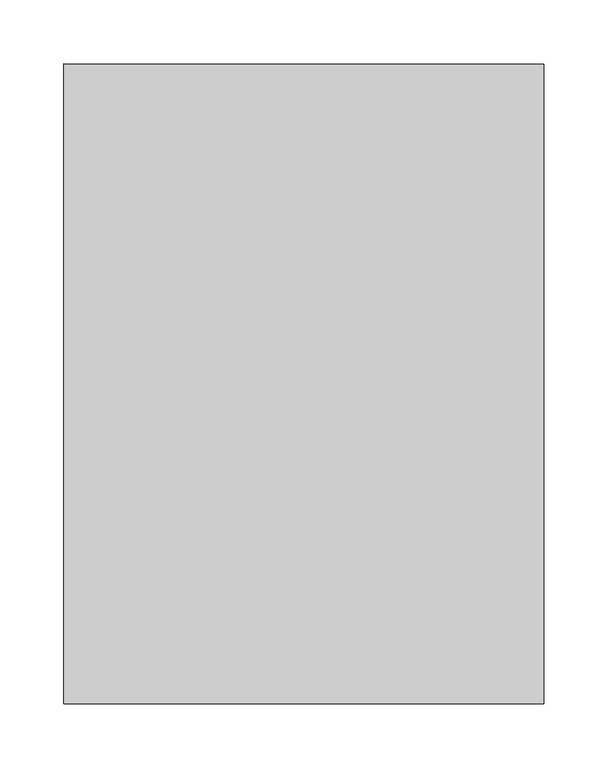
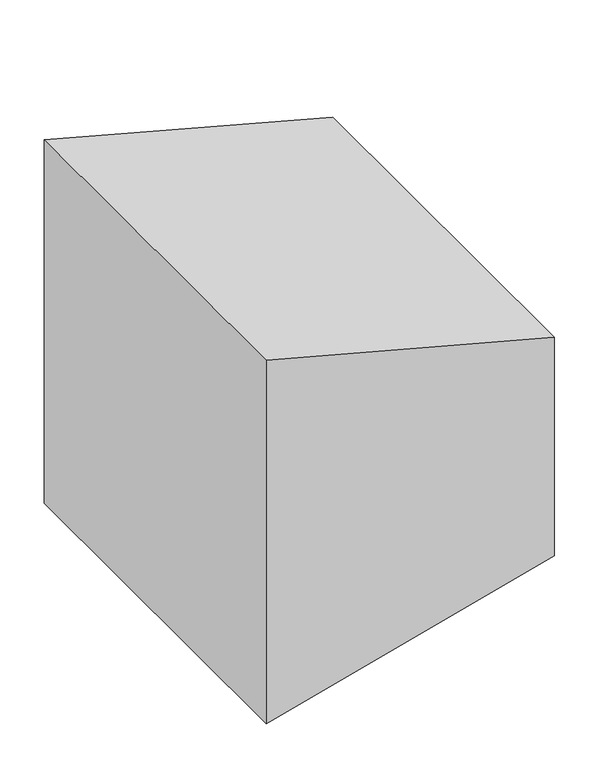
"""IFC4 building model written with IfcOpenShell, lengths in millimetres: duct fitting geometry, ADSK_ПереходникВоздуховодов_Прямоугольный : Стандартное."""

from ifc_helpers import new_model, si_unit, frame, origin, place, context, project, spatial, polyline, outline, extrude, source, transform, mapped, element, save


def duct_fitting_c8f7d042(model_context):
    return source(origin(), model_context, "Body", "SweptSolid", [
        extrude(outline(polyline([(250.0, 0.0), (-250.0, 0.0), (-150.0, 375.0), (150.0, 375.0), (250.0, 0.0)])), frame((0.0, -250.0, 0.0), z_axis=(0.0, 1.0, 0.0), x_axis=(0.0, 0.0, 1.0)), (0.0, 0.0, 1.0), 500.0),
    ])


if __name__ == "__main__":
    model = new_model("IFC4")
    model_context = context("Model", 3, world=origin())
    ifc_project = project(units=[si_unit("LENGTHUNIT", "METRE", prefix="MILLI")], contexts=[model_context])
    site = spatial("IfcSite", under=ifc_project)
    building = spatial("IfcBuilding", under=site)
    placement = place(None, origin())
    duct_fitting_shape = duct_fitting_c8f7d042(model_context)
    element("IfcDuctFitting", 1, ObjectType="ADSK_ПереходникВоздуховодов_Прямоугольный : Стандартное", at=placement, inside=building, context=model_context, shape_type="MappedRepresentation", body=[
        mapped(duct_fitting_shape, transform((0.0, 0.0, 0.0), x_axis=(1.0, 0.0, 0.0), y_axis=(0.0, 1.0, 0.0), z_axis=(0.0, 0.0, 1.0))),
    ])
    save(model, "model.ifc")
